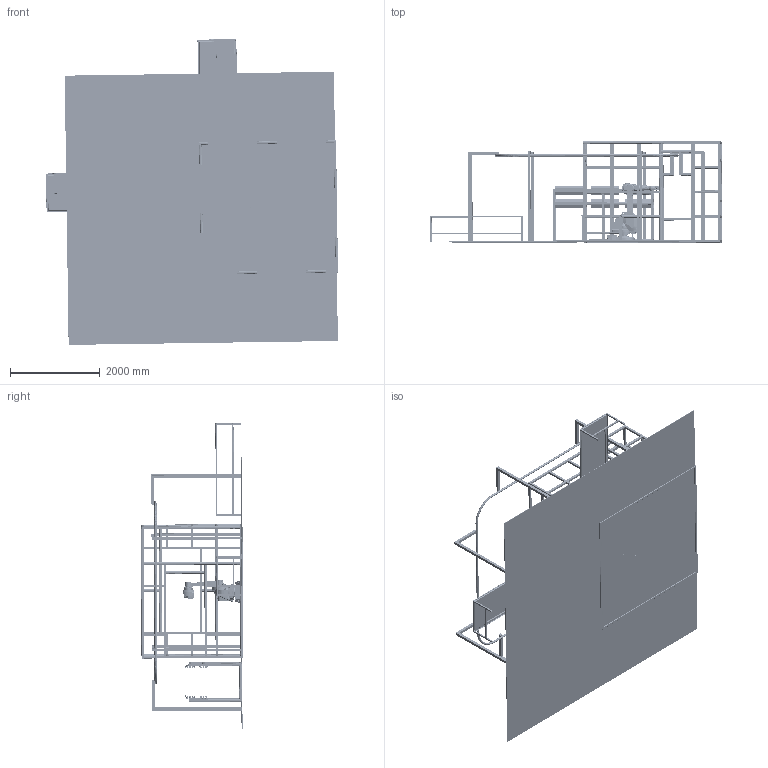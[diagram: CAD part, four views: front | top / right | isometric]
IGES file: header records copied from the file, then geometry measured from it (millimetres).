
Global section: file name: v2_Celda_Robotizada; native system: Autodesk Inventor 2024; preprocessor: unknown; author: javie; date: 20230429.121907; units: inch
Bounding box: 6506.65 x 2263.47 x 6813.84 mm (x, y, z)
Volume: 678057439.9 mm3; surface area: 144403060.7 mm2
Topology: 950 solids, 950 shells, 29597 faces, 87065 edges, 60301 vertices
Faces by surface type: bspline 28861, revolution 736
